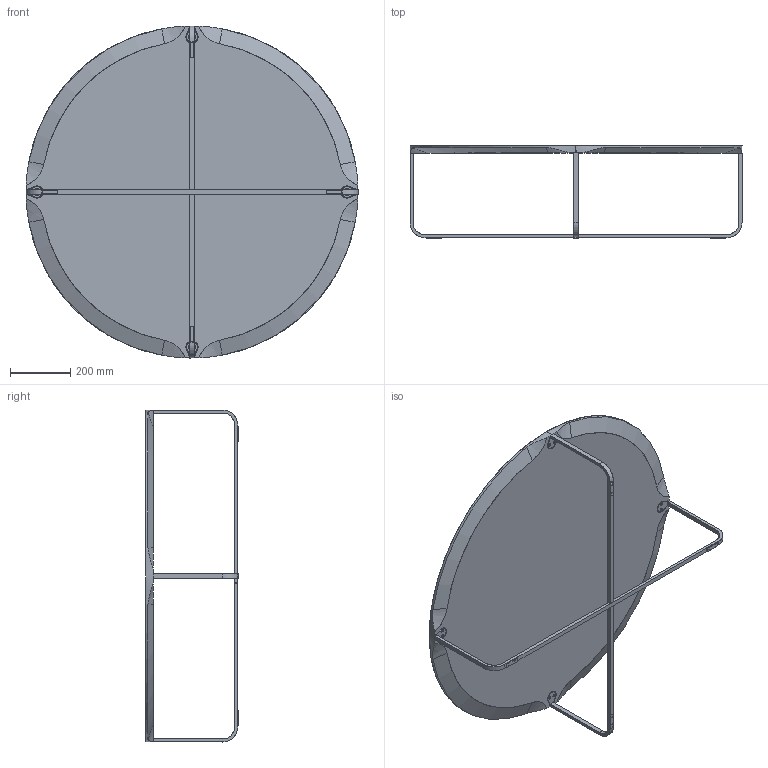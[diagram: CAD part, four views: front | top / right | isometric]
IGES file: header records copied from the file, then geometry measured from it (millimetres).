
Start section: SolidWorks IGES file using analytic representation for surfaces
Global section: file name: G:\CAD-FILES\3D Montis\3D_IGS\Flint tafel 1100-300.IGS; native system: SolidWorks 2007; preprocessor: SolidWorks 2007; author: gerard; date: 060929.091143; units: millimetre
Bounding box: 1100 x 308 x 1100 mm (x, y, z)
Surface area: 2119397.7 mm2 (no closed solid volume)
Topology: 0 solids, 0 shells, 186 faces, 2760 edges, 2760 vertices
Faces by surface type: revolution 109, bspline 77
